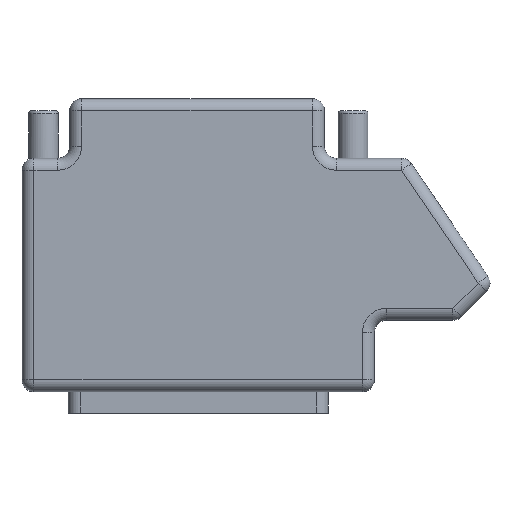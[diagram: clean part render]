
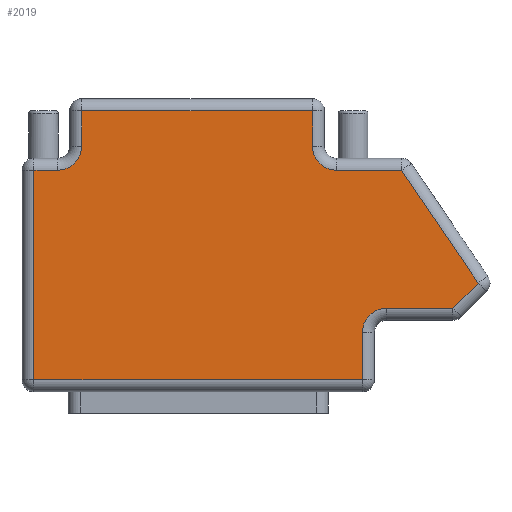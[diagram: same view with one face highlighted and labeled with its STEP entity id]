
A CAD part, top view. The second image highlights one B-rep face of the part: STEP entity #2019.
In plain terms, the highlighted planar face has unit normal (0, 0, 1).
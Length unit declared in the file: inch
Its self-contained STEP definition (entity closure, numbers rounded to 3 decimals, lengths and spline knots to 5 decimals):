
#489=DIRECTION('',(1.,0.,0.));
#490=VECTOR('',#489,2.76);
#491=CARTESIAN_POINT('',(-1.38,-1.15,0.335));
#492=LINE('',#491,#490);
#493=DIRECTION('',(0.,-1.,0.));
#494=VECTOR('',#493,1.76);
#495=CARTESIAN_POINT('',(-1.38,0.61,0.335));
#496=LINE('',#495,#494);
#497=DIRECTION('',(-1.,0.,0.));
#498=VECTOR('',#497,0.2);
#499=CARTESIAN_POINT('',(-1.18,0.61,0.335));
#500=LINE('',#499,#498);
#501=CARTESIAN_POINT('',(-1.18,0.81,0.335));
#502=DIRECTION('',(0.,0.,1.));
#503=DIRECTION('',(0.,-1.,0.));
#504=AXIS2_PLACEMENT_3D('',#501,#502,#503);
#506=DIRECTION('',(0.,-1.,0.));
#507=VECTOR('',#506,0.3);
#508=CARTESIAN_POINT('',(-0.98,1.11,0.335));
#509=LINE('',#508,#507);
#510=DIRECTION('',(-1.,0.,0.));
#511=VECTOR('',#510,1.94);
#512=CARTESIAN_POINT('',(0.96,1.11,0.335));
#513=LINE('',#512,#511);
#514=DIRECTION('',(0.,1.,0.));
#515=VECTOR('',#514,0.3);
#516=CARTESIAN_POINT('',(0.96,0.81,0.335));
#517=LINE('',#516,#515);
#518=CARTESIAN_POINT('',(1.16,0.81,0.335));
#519=DIRECTION('',(0.,0.,1.));
#520=DIRECTION('',(-1.,0.,0.));
#521=AXIS2_PLACEMENT_3D('',#518,#519,#520);
#523=DIRECTION('',(-1.,0.,0.));
#524=VECTOR('',#523,0.54704);
#525=CARTESIAN_POINT('',(1.70704,0.61,0.335));
#526=LINE('',#525,#524);
#527=DIRECTION('',(-0.562,0.827,0.));
#528=VECTOR('',#527,1.14574);
#529=CARTESIAN_POINT('',(2.35081,-0.33777,0.335));
#530=LINE('',#529,#528);
#531=DIRECTION('',(0.707,0.707,0.));
#532=VECTOR('',#531,0.30014);
#533=CARTESIAN_POINT('',(2.13858,-0.55,0.335));
#534=LINE('',#533,#532);
#535=DIRECTION('',(1.,0.,0.));
#536=VECTOR('',#535,0.55858);
#537=CARTESIAN_POINT('',(1.58,-0.55,0.335));
#538=LINE('',#537,#536);
#539=CARTESIAN_POINT('',(1.58,-0.75,0.335));
#540=DIRECTION('',(0.,0.,1.));
#541=DIRECTION('',(0.,1.,0.));
#542=AXIS2_PLACEMENT_3D('',#539,#540,#541);
#544=DIRECTION('',(0.,1.,0.));
#545=VECTOR('',#544,0.4);
#546=CARTESIAN_POINT('',(1.38,-1.15,0.335));
#547=LINE('',#546,#545);
#1073=CARTESIAN_POINT('',(-1.38,-1.15,0.335));
#1074=CARTESIAN_POINT('',(1.38,-1.15,0.335));
#1075=VERTEX_POINT('',#1073);
#1076=VERTEX_POINT('',#1074);
#1081=CARTESIAN_POINT('',(1.38,-0.75,0.335));
#1082=VERTEX_POINT('',#1081);
#1087=CARTESIAN_POINT('',(1.58,-0.55,0.335));
#1088=CARTESIAN_POINT('',(2.13858,-0.55,0.335));
#1089=VERTEX_POINT('',#1087);
#1090=VERTEX_POINT('',#1088);
#1109=CARTESIAN_POINT('',(2.35081,-0.33777,0.335));
#1110=VERTEX_POINT('',#1109);
#1115=CARTESIAN_POINT('',(1.70704,0.61,0.335));
#1116=VERTEX_POINT('',#1115);
#1125=CARTESIAN_POINT('',(1.16,0.61,0.335));
#1126=VERTEX_POINT('',#1125);
#1135=CARTESIAN_POINT('',(0.96,0.81,0.335));
#1136=CARTESIAN_POINT('',(0.96,1.11,0.335));
#1137=VERTEX_POINT('',#1135);
#1138=VERTEX_POINT('',#1136);
#1147=CARTESIAN_POINT('',(-0.98,1.11,0.335));
#1148=VERTEX_POINT('',#1147);
#1157=CARTESIAN_POINT('',(-0.98,0.81,0.335));
#1158=VERTEX_POINT('',#1157);
#1165=CARTESIAN_POINT('',(-1.18,0.61,0.335));
#1166=CARTESIAN_POINT('',(-1.38,0.61,0.335));
#1167=VERTEX_POINT('',#1165);
#1168=VERTEX_POINT('',#1166);
#1988=CARTESIAN_POINT('',(0.,0.,0.335));
#1989=DIRECTION('',(0.,0.,1.));
#1990=DIRECTION('',(1.,0.,0.));
#1991=AXIS2_PLACEMENT_3D('',#1988,#1989,#1990);
#1992=PLANE('',#1991);
#1994=ORIENTED_EDGE('',*,*,#1993,.F.);
#1996=ORIENTED_EDGE('',*,*,#1995,.F.);
#1998=ORIENTED_EDGE('',*,*,#1997,.F.);
#2000=ORIENTED_EDGE('',*,*,#1999,.T.);
#2002=ORIENTED_EDGE('',*,*,#2001,.F.);
#2004=ORIENTED_EDGE('',*,*,#2003,.F.);
#2006=ORIENTED_EDGE('',*,*,#2005,.F.);
#2008=ORIENTED_EDGE('',*,*,#2007,.T.);
#2010=ORIENTED_EDGE('',*,*,#2009,.F.);
#2011=ORIENTED_EDGE('',*,*,#1855,.F.);
#2012=ORIENTED_EDGE('',*,*,#1883,.F.);
#2013=ORIENTED_EDGE('',*,*,#1966,.F.);
#2014=ORIENTED_EDGE('',*,*,#1978,.T.);
#2016=ORIENTED_EDGE('',*,*,#2015,.F.);
#2017=EDGE_LOOP('',(#1994,#1996,#1998,#2000,#2002,#2004,#2006,#2008,#2010,#2011,
#2012,#2013,#2014,#2016));
#2018=FACE_OUTER_BOUND('',#2017,.F.);
#2019=ADVANCED_FACE('',(#2018),#1992,.T.);
#505=CIRCLE('',#504,0.2);
#522=CIRCLE('',#521,0.2);
#543=CIRCLE('',#542,0.2);
#1855=EDGE_CURVE('',#1110,#1116,#530,.T.);
#1883=EDGE_CURVE('',#1090,#1110,#534,.T.);
#1966=EDGE_CURVE('',#1089,#1090,#538,.T.);
#1978=EDGE_CURVE('',#1089,#1082,#543,.T.);
#1993=EDGE_CURVE('',#1075,#1076,#492,.T.);
#1995=EDGE_CURVE('',#1168,#1075,#496,.T.);
#1997=EDGE_CURVE('',#1167,#1168,#500,.T.);
#1999=EDGE_CURVE('',#1167,#1158,#505,.T.);
#2001=EDGE_CURVE('',#1148,#1158,#509,.T.);
#2003=EDGE_CURVE('',#1138,#1148,#513,.T.);
#2005=EDGE_CURVE('',#1137,#1138,#517,.T.);
#2007=EDGE_CURVE('',#1137,#1126,#522,.T.);
#2009=EDGE_CURVE('',#1116,#1126,#526,.T.);
#2015=EDGE_CURVE('',#1076,#1082,#547,.T.);
